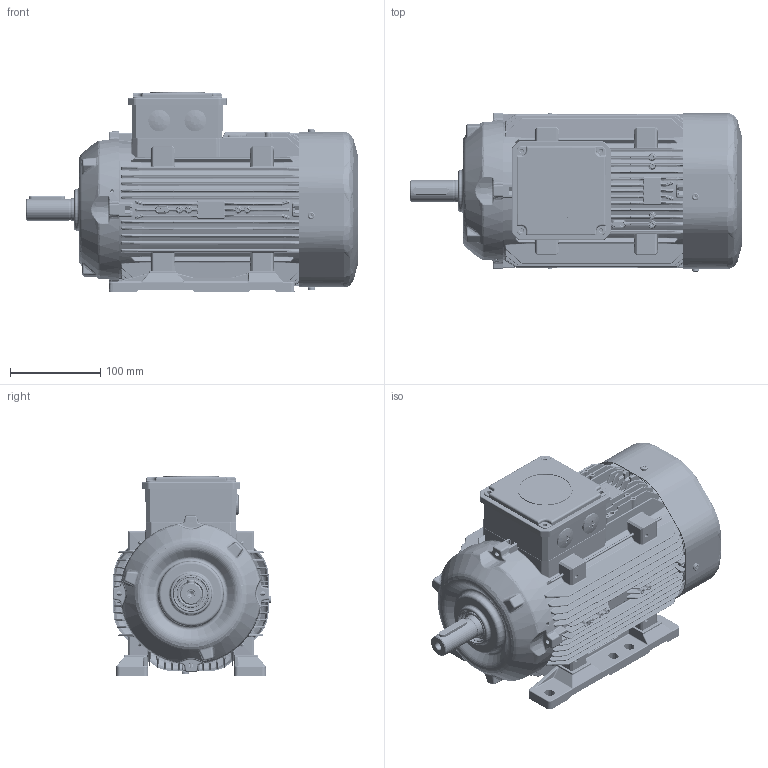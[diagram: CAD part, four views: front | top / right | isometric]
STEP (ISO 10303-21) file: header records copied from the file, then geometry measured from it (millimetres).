
FILE_DESCRIPTION(/* description */ (''),/* implementation_level */ '2;1');
FILE_NAME(/* name */ 'OUTLOOK VIEW QH90 KT B3 SPL.stp',/* time_stamp */ '2021-09-21T14:06:19+03:00',/* author */ (''),/* organization */ (''),/* preprocessor_version */ 'ST-DEVELOPER v16',/* originating_system */ 'SIEMENS PLM Software NX 11.0',/* authorisation */ '');
FILE_SCHEMA (('AUTOMOTIVE_DESIGN { 1 0 10303 214 3 1 1 1 }'));
Products named in the file (1): 260652D491E0rwag
Bounding box: 367.71 x 176.1 x 221.3 mm (x, y, z)
Volume: 1695965.2 mm3; surface area: 999547.6 mm2
Topology: 41 solids, 50 shells, 11210 faces, 26782 edges, 15283 vertices
Faces by surface type: bspline 3731, cylinder 3695, plane 2343, torus 506, sphere 488, cone 393, extrusion 54
Full cylindrical faces by diameter (mm): 2.5 x2, 3.242 x3, 3.4 x48, 4 x4, 4.2 x1, 4.6 x12, 4.722 x3, 5 x31, 5.5 x4, 6.8 x1, 8 x3, 8.4 x1, 9.874 x1, 14 x2, 19.4 x1, 20 x1, 21 x1, 23.38 x2, 23.4 x1, 23.9 x1, 24 x3, 24.4 x2, 25 x5, 25.5 x2, 27.5 x1, 27.94 x1, 29 x2, 30 x1, 34.35 x4, 36.6 x4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
Entity records: 399937 total; most frequent: CARTESIAN_POINT 162897, ORIENTED_EDGE 51026, DIRECTION 45562, EDGE_CURVE 25513, AXIS2_PLACEMENT_3D 18444, VERTEX_POINT 15052, EDGE_LOOP 12119, ADVANCED_FACE 11168
